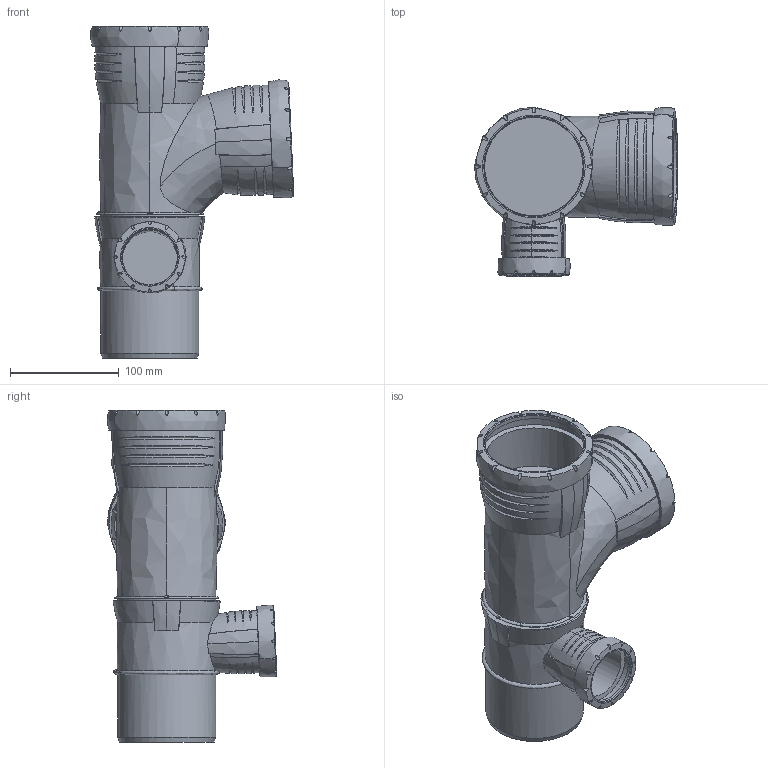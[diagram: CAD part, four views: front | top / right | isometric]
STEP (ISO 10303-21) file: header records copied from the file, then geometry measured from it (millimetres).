
FILE_DESCRIPTION(/* description */ (''),/* implementation_level */ '2;1');
FILE_NAME(/* name */ 'H:\Geberit-Teile\Export\Silent\stp\393462.stp',/* time_stamp */ '2017-03-30T11:41:07+02:00',/* author */ ('seihe2'),/* organization */ (''),/* preprocessor_version */ 'ST-DEVELOPER v15.2',/* originating_system */ 'Autodesk Inventor 2014',/* authorisation */ '');
FILE_SCHEMA (('AUTOMOTIVE_DESIGN { 1 0 10303 214 3 1 1 }'));
Length unit declared in the file: millimetre
Products named in the file (1): 393462
Bounding box: 187.18 x 156.06 x 306 mm (x, y, z)
Surface area: 222171.4 mm2 (no closed solid volume)
Topology: 0 solids, 1 shells, 257 faces, 748 edges, 503 vertices
Faces by surface type: bspline 143, cone 81, cylinder 15, plane 14, torus 4
Full cylindrical faces by diameter (mm): 51 x1, 60.1 x1, 81.6 x1, 90.2 x2, 91.2 x2, 100.2 x2
Entity records: 16532 total; most frequent: CARTESIAN_POINT 10950, ORIENTED_EDGE 1412, EDGE_CURVE 706, DIRECTION 653, VERTEX_POINT 492, B_SPLINE_CURVE_WITH_KNOTS 458, AXIS2_PLACEMENT_3D 302, EDGE_LOOP 298
